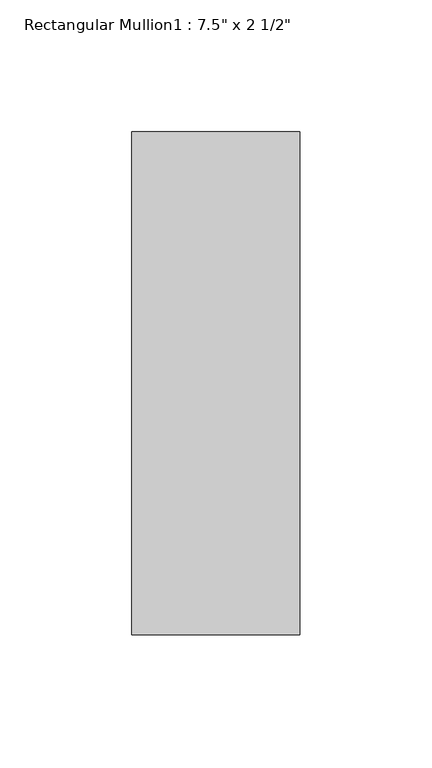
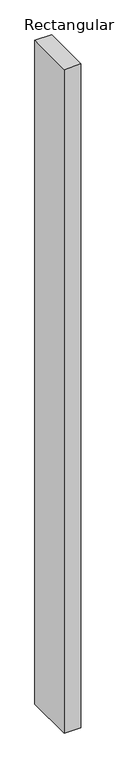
"""IFC4 building model written with IfcOpenShell, lengths in millimetres: member geometry."""

import ifcopenshell
import ifcopenshell.guid

model = None  # the IFC model being written
_history = None  # IfcOwnerHistory: only IFC2X3 demands one
_inside = {}  # id of a spatial element -> (the spatial element, [elements in it])
_under = {}  # id of a project, library or spatial element -> (it, [spatial elements below it])
_declared = {}  # id of a project -> (the project, [libraries it declares])
_typed = {}  # id of a type object -> (the type object, [elements of that type])
_made_of = {}  # id of a material, layer set ... -> (it, [elements and type objects made of it])


def new_model(schema):
    """Start an empty IFC model of exactly this schema.

    Asked for "IFC4X3", IfcOpenShell would pick the latest addendum, in which some entities
    have other attributes; the version numbers below select the first issue.
    IFC2X3 requires an IfcOwnerHistory on every rooted entity: one is made here for all.
    """
    global model, _history
    if schema == "IFC4X3":
        model = ifcopenshell.file(schema_version=(4, 3, 0, 0))
    else:
        model = ifcopenshell.file(schema=schema)
    _inside.clear()
    _under.clear()
    _declared.clear()
    _typed.clear()
    _made_of.clear()
    _history = None
    if model.schema == "IFC2X3":
        org = make("IfcOrganization", Name="unknown")
        user = make(
            "IfcPersonAndOrganization",
            ThePerson=make("IfcPerson", FamilyName="unknown"),
            TheOrganization=org,
        )
        app = make(
            "IfcApplication",
            ApplicationDeveloper=org,
            Version="unknown",
            ApplicationFullName="unknown",
            ApplicationIdentifier="unknown",
        )
        _history = make(
            "IfcOwnerHistory",
            OwningUser=user,
            OwningApplication=app,
            ChangeAction="ADDED",
            CreationDate=0,
        )
    return model


def make(cls, **values):
    """One entity of the class cls with the attributes given. An attribute that is None is left unset."""
    return model.create_entity(
        cls, **{name: value for name, value in values.items() if value is not None}
    )


def rooted(cls, **values):
    """An entity with a GlobalId (a new one), such as an element, a storey or a relation."""
    return make(cls, GlobalId=ifcopenshell.guid.new(), OwnerHistory=_history, **values)


def si_unit(unit_type, name, prefix=None):
    """IfcSIUnit, for example si_unit("LENGTHUNIT", "METRE", prefix="MILLI")."""
    return make("IfcSIUnit", UnitType=unit_type, Prefix=prefix, Name=name)


def assignment(units):
    """IfcUnitAssignment: the units of a project."""
    return None if units is None else make("IfcUnitAssignment", Units=units)


def point(xyz):
    """IfcCartesianPoint."""
    return None if xyz is None else make("IfcCartesianPoint", Coordinates=xyz)


def direction(xyz):
    """IfcDirection."""
    return None if xyz is None else make("IfcDirection", DirectionRatios=xyz)


def frame(location, z_axis=None, x_axis=None):
    """IfcAxis2Placement3D, a coordinate frame: its origin and axes. An axis left out is left unset."""
    return make(
        "IfcAxis2Placement3D",
        Location=point(location),
        Axis=direction(z_axis),
        RefDirection=direction(x_axis),
    )


def origin():
    """The frame at (0, 0, 0) with its axes left unset."""
    return frame((0.0, 0.0, 0.0))


def place(relative_to, where):
    """IfcLocalPlacement: puts the frame where relative to a parent placement (None: the world)."""
    return make(
        "IfcLocalPlacement", PlacementRelTo=relative_to, RelativePlacement=where
    )


def context(
    kind, dimensions, precision=None, world=None, true_north=None, identifier=None
):
    """IfcGeometricRepresentationContext, for example the 3D "Model" context."""
    return make(
        "IfcGeometricRepresentationContext",
        ContextIdentifier=identifier,
        ContextType=kind,
        CoordinateSpaceDimension=dimensions,
        Precision=precision,
        WorldCoordinateSystem=world,
        TrueNorth=true_north,
    )


def project(units=None, contexts=None):
    """IfcProject with its units and contexts."""
    return rooted(
        "IfcProject",
        Name="project",
        RepresentationContexts=contexts,
        UnitsInContext=assignment(units),
    )


def spatial(cls, under=None, at=None, **own):
    """A site, building, storey or space (cls), placed at a placement, below another one or the project."""
    s = rooted(cls, ObjectPlacement=at, **own)
    if under is not None:
        _under.setdefault(under.id(), (under, []))[1].append(s)
    return s


def polyline(points):
    """IfcPolyline through the points."""
    return make("IfcPolyline", Points=[point(p) for p in points])


def outline(outer, holes=None, kind="AREA"):
    """IfcArbitraryClosedProfileDef: a profile drawn as a closed curve; with holes, ...WithVoids."""
    if holes is None:
        return make("IfcArbitraryClosedProfileDef", ProfileType=kind, OuterCurve=outer)
    return make(
        "IfcArbitraryProfileDefWithVoids",
        ProfileType=kind,
        OuterCurve=outer,
        InnerCurves=holes,
    )


def extrude(swept, where, along, depth):
    """IfcExtrudedAreaSolid: the profile swept, set in the frame where, extruded along a direction by depth."""
    return make(
        "IfcExtrudedAreaSolid",
        SweptArea=swept,
        Position=where,
        ExtrudedDirection=direction(along),
        Depth=depth,
    )


def shape(context_of_items, identifier, shape_type, items):
    """IfcShapeRepresentation: the items that make up one representation, for example the "Body"."""
    return make(
        "IfcShapeRepresentation",
        ContextOfItems=context_of_items,
        RepresentationIdentifier=identifier,
        RepresentationType=shape_type,
        Items=items,
    )


def source(mapping_origin, context_of_items, identifier, shape_type, items):
    """IfcRepresentationMap: a shape defined once, which mapped items show again and again."""
    return make(
        "IfcRepresentationMap",
        MappingOrigin=mapping_origin,
        MappedRepresentation=shape(context_of_items, identifier, shape_type, items),
    )


def transform(
    local_origin,
    x_axis=None,
    y_axis=None,
    z_axis=None,
    scale=None,
    scale2=None,
    scale3=None,
    uniform=True,
):
    """IfcCartesianTransformationOperator3D, or its non-uniform kind. x_axis, y_axis, z_axis: its Axis1, 2, 3."""
    if uniform:
        return make(
            "IfcCartesianTransformationOperator3D",
            Axis1=direction(x_axis),
            Axis2=direction(y_axis),
            LocalOrigin=point(local_origin),
            Scale=scale,
            Axis3=direction(z_axis),
        )
    return make(
        "IfcCartesianTransformationOperator3DnonUniform",
        Axis1=direction(x_axis),
        Axis2=direction(y_axis),
        LocalOrigin=point(local_origin),
        Scale=scale,
        Axis3=direction(z_axis),
        Scale2=scale2,
        Scale3=scale3,
    )


def mapped(mapping_source, mapping_target):
    """IfcMappedItem: shows the shape of a source again, moved by a transform."""
    return make(
        "IfcMappedItem", MappingSource=mapping_source, MappingTarget=mapping_target
    )


def made_of(thing, what):
    """Note that an element or type object is made of a material, layer set ...; save() writes the relation."""
    if what is not None:
        _made_of.setdefault(what.id(), (what, []))[1].append(thing)
    return thing


def element(
    cls,
    number,
    at=None,
    inside=None,
    cuts=None,
    type_object=None,
    material=None,
    context=None,
    identifier="Body",
    shape_type=None,
    held_by="IfcProductDefinitionShape",
    body=None,
    shapes=None,
    **own,
):
    """One element of the class cls, such as IfcWall. Its Tag is "e" and its number.

    at: its placement. inside: the storey or other place that contains it. cuts: it is an
    opening in that element (IfcRelVoidsElement). A single representation is given by context,
    identifier, shape_type and body (its items); several are given by shapes. held_by: the class
    of the entity that holds the representations. save() writes the other relations.
    """
    e = rooted(cls, Tag="e%d" % number, ObjectPlacement=at, **own)
    if body is not None:
        shapes = [shape(context, identifier, shape_type, body)]
    if shapes is not None:
        e.Representation = make(held_by, Representations=shapes)
    if inside is not None:
        _inside.setdefault(inside.id(), (inside, []))[1].append(e)
    if cuts is not None:
        rooted(
            "IfcRelVoidsElement", RelatingBuildingElement=cuts, RelatedOpeningElement=e
        )
    if type_object is not None:
        _typed.setdefault(type_object.id(), (type_object, []))[1].append(e)
    return made_of(e, material)


def aggregate(whole, parts):
    """IfcRelAggregates: a whole, such as a stair, and the parts it consists of."""
    return rooted("IfcRelAggregates", RelatingObject=whole, RelatedObjects=parts)


def save(model, path):
    """Write the relations noted so far, then the file.

    IfcRelAggregates (storeys below a building ...), IfcRelContainedInSpatialStructure (elements
    in a storey), IfcRelDefinesByType, IfcRelAssociatesMaterial and IfcRelDeclares: one each for
    every whole, place, type object, material and project.
    """
    for whole, parts in _under.values():
        aggregate(whole, parts)
    for where, things in _inside.values():
        rooted(
            "IfcRelContainedInSpatialStructure",
            RelatedElements=things,
            RelatingStructure=where,
        )
    for kind, things in _typed.values():
        rooted("IfcRelDefinesByType", RelatedObjects=things, RelatingType=kind)
    for what, things in _made_of.values():
        rooted("IfcRelAssociatesMaterial", RelatedObjects=things, RelatingMaterial=what)
    for by, libraries in _declared.values():
        rooted("IfcRelDeclares", RelatingContext=by, RelatedDefinitions=libraries)
    model.write(path)


def member_dfc60b08(model_context):
    return source(origin(), model_context, "Body", "SweptSolid", [
        extrude(outline(polyline([(-63.5, 165.1), (0.0, 165.1), (0.0, -25.4), (-63.5, -25.4), (-63.5, 165.1)])), frame((0.0, 0.0, -2641.6), z_axis=(0.0, 0.0, 1.0), x_axis=(1.0, 0.0, 0.0)), (0.0, 0.0, 1.0), 2641.6),
    ])


if __name__ == "__main__":
    model = new_model("IFC4")
    model_context = context("Model", 3, world=origin())
    ifc_project = project(units=[si_unit("LENGTHUNIT", "METRE", prefix="MILLI")], contexts=[model_context])
    site = spatial("IfcSite", under=ifc_project)
    building = spatial("IfcBuilding", under=site)
    placement = place(None, origin())
    member_shape = member_dfc60b08(model_context)
    element("IfcMember", 1, ObjectType="Rectangular Mullion1 : 7.5\" x 2 1/2\"", at=placement, inside=building, context=model_context, shape_type="MappedRepresentation", body=[
        mapped(member_shape, transform((0.0, 0.0, 0.0), x_axis=(1.0, 0.0, 0.0), y_axis=(0.0, 1.0, 0.0), z_axis=(0.0, 0.0, 1.0))),
    ])
    save(model, "model.ifc")
